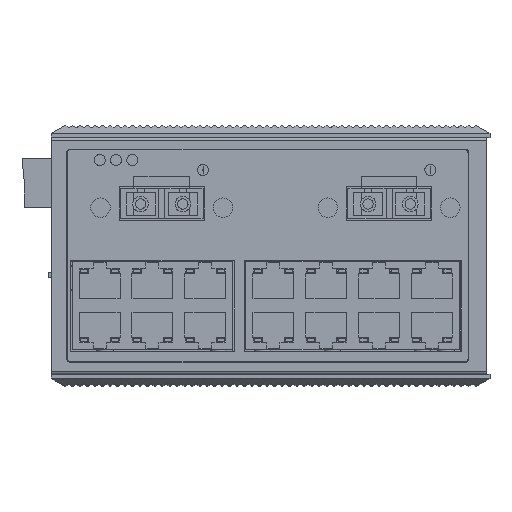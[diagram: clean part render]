
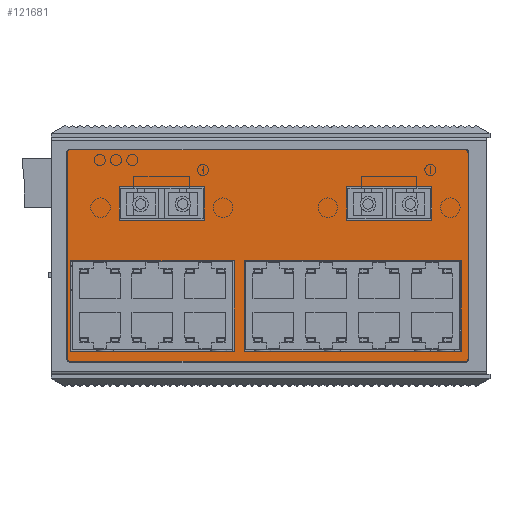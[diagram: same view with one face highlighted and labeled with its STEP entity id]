
A CAD part, top view. The second image highlights one B-rep face of the part: STEP entity #121681.
In plain terms, the highlighted planar face has unit normal (0, 0, 1).
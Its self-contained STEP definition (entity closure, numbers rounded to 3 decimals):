
#121158=DIRECTION('',(0.,1.,0.));
#121159=VECTOR('',#121158,63.5);
#121160=CARTESIAN_POINT('',(-60.63,-30.85,49.3));
#121161=LINE('',#121160,#121159);
#121170=DIRECTION('',(-1.,0.,0.));
#121171=VECTOR('',#121170,121.76);
#121172=CARTESIAN_POINT('',(61.93,-31.65,49.3));
#121173=LINE('',#121172,#121171);
#121182=DIRECTION('',(0.,-1.,0.));
#121183=VECTOR('',#121182,63.5);
#121184=CARTESIAN_POINT('',(62.73,32.65,49.3));
#121185=LINE('',#121184,#121183);
#121194=DIRECTION('',(1.,0.,0.));
#121195=VECTOR('',#121194,121.76);
#121196=CARTESIAN_POINT('',(-59.83,33.45,49.3));
#121197=LINE('',#121196,#121195);
#121206=CARTESIAN_POINT('',(-59.83,-30.85,49.3));
#121207=DIRECTION('',(0.,0.,1.));
#121208=DIRECTION('',(-1.,0.,0.));
#121209=AXIS2_PLACEMENT_3D('',#121206,#121207,#121208);
#121211=CARTESIAN_POINT('',(-59.83,32.65,49.3));
#121212=DIRECTION('',(0.,0.,1.));
#121213=DIRECTION('',(0.,1.,0.));
#121214=AXIS2_PLACEMENT_3D('',#121211,#121212,#121213);
#121216=CARTESIAN_POINT('',(61.93,32.65,49.3));
#121217=DIRECTION('',(0.,0.,1.));
#121218=DIRECTION('',(1.,0.,0.));
#121219=AXIS2_PLACEMENT_3D('',#121216,#121217,#121218);
#121221=CARTESIAN_POINT('',(61.93,-30.85,49.3));
#121222=DIRECTION('',(0.,0.,1.));
#121223=DIRECTION('',(0.,-1.,0.));
#121224=AXIS2_PLACEMENT_3D('',#121221,#121222,#121223);
#121226=DIRECTION('',(0.,-1.,0.));
#121227=VECTOR('',#121226,10.4);
#121228=CARTESIAN_POINT('',(51.56,22.2,49.3));
#121229=LINE('',#121228,#121227);
#121230=DIRECTION('',(1.,0.,0.));
#121231=VECTOR('',#121230,26.2);
#121232=CARTESIAN_POINT('',(25.36,22.2,49.3));
#121233=LINE('',#121232,#121231);
#121234=DIRECTION('',(0.,1.,0.));
#121235=VECTOR('',#121234,10.4);
#121236=CARTESIAN_POINT('',(25.36,11.8,49.3));
#121237=LINE('',#121236,#121235);
#121238=DIRECTION('',(-1.,0.,0.));
#121239=VECTOR('',#121238,26.2);
#121240=CARTESIAN_POINT('',(51.56,11.8,49.3));
#121241=LINE('',#121240,#121239);
#121242=DIRECTION('',(0.,-1.,0.));
#121243=VECTOR('',#121242,10.4);
#121244=CARTESIAN_POINT('',(-18.44,22.2,49.3));
#121245=LINE('',#121244,#121243);
#121246=DIRECTION('',(1.,0.,0.));
#121247=VECTOR('',#121246,26.2);
#121248=CARTESIAN_POINT('',(-44.64,22.2,49.3));
#121249=LINE('',#121248,#121247);
#121250=DIRECTION('',(0.,1.,0.));
#121251=VECTOR('',#121250,10.4);
#121252=CARTESIAN_POINT('',(-44.64,11.8,49.3));
#121253=LINE('',#121252,#121251);
#121254=DIRECTION('',(-1.,0.,0.));
#121255=VECTOR('',#121254,26.2);
#121256=CARTESIAN_POINT('',(-18.44,11.8,49.3));
#121257=LINE('',#121256,#121255);
#121258=DIRECTION('',(0.,1.,0.));
#121259=VECTOR('',#121258,27.95);
#121260=CARTESIAN_POINT('',(-59.625,-28.55,49.3));
#121261=LINE('',#121260,#121259);
#121262=DIRECTION('',(-1.,0.,0.));
#121263=VECTOR('',#121262,50.45);
#121264=CARTESIAN_POINT('',(-9.175,-28.55,49.3));
#121265=LINE('',#121264,#121263);
#121266=DIRECTION('',(0.,-1.,0.));
#121267=VECTOR('',#121266,27.95);
#121268=CARTESIAN_POINT('',(-9.175,-0.6,49.3));
#121269=LINE('',#121268,#121267);
#121270=DIRECTION('',(1.,0.,0.));
#121271=VECTOR('',#121270,50.45);
#121272=CARTESIAN_POINT('',(-59.625,-0.6,49.3));
#121273=LINE('',#121272,#121271);
#121274=DIRECTION('',(1.,0.,0.));
#121275=VECTOR('',#121274,66.81);
#121276=CARTESIAN_POINT('',(-6.175,-0.6,49.3));
#121277=LINE('',#121276,#121275);
#121278=DIRECTION('',(0.,1.,0.));
#121279=VECTOR('',#121278,27.95);
#121280=CARTESIAN_POINT('',(-6.175,-28.55,49.3));
#121281=LINE('',#121280,#121279);
#121282=DIRECTION('',(-1.,0.,0.));
#121283=VECTOR('',#121282,66.81);
#121284=CARTESIAN_POINT('',(60.635,-28.55,49.3));
#121285=LINE('',#121284,#121283);
#121286=DIRECTION('',(0.,-1.,0.));
#121287=VECTOR('',#121286,27.95);
#121288=CARTESIAN_POINT('',(60.635,-0.6,49.3));
#121289=LINE('',#121288,#121287);
#121359=CARTESIAN_POINT('',(-59.83,-31.65,49.3));
#121361=VERTEX_POINT('',#121359);
#121368=CARTESIAN_POINT('',(-60.63,-30.85,49.3));
#121369=VERTEX_POINT('',#121368);
#121382=CARTESIAN_POINT('',(-60.63,32.65,49.3));
#121383=VERTEX_POINT('',#121382);
#121384=CARTESIAN_POINT('',(61.93,-31.65,49.3));
#121385=VERTEX_POINT('',#121384);
#121394=CARTESIAN_POINT('',(25.36,22.2,49.3));
#121395=VERTEX_POINT('',#121394);
#121396=CARTESIAN_POINT('',(25.36,11.8,49.3));
#121397=VERTEX_POINT('',#121396);
#121400=CARTESIAN_POINT('',(-59.83,33.45,49.3));
#121401=VERTEX_POINT('',#121400);
#121412=CARTESIAN_POINT('',(-44.64,22.2,49.3));
#121413=VERTEX_POINT('',#121412);
#121414=CARTESIAN_POINT('',(-44.64,11.8,49.3));
#121415=VERTEX_POINT('',#121414);
#121416=CARTESIAN_POINT('',(51.56,11.8,49.3));
#121417=VERTEX_POINT('',#121416);
#121418=CARTESIAN_POINT('',(51.56,22.2,49.3));
#121419=VERTEX_POINT('',#121418);
#121420=CARTESIAN_POINT('',(61.93,33.45,49.3));
#121421=VERTEX_POINT('',#121420);
#121422=CARTESIAN_POINT('',(62.73,-30.85,49.3));
#121423=VERTEX_POINT('',#121422);
#121428=CARTESIAN_POINT('',(-9.175,-28.55,49.3));
#121429=VERTEX_POINT('',#121428);
#121430=CARTESIAN_POINT('',(-9.175,-0.6,49.3));
#121431=VERTEX_POINT('',#121430);
#121432=CARTESIAN_POINT('',(-18.44,11.8,49.3));
#121433=VERTEX_POINT('',#121432);
#121434=CARTESIAN_POINT('',(-18.44,22.2,49.3));
#121435=VERTEX_POINT('',#121434);
#121436=CARTESIAN_POINT('',(62.73,32.65,49.3));
#121437=VERTEX_POINT('',#121436);
#121438=CARTESIAN_POINT('',(-6.175,-28.55,49.3));
#121439=VERTEX_POINT('',#121438);
#121440=CARTESIAN_POINT('',(60.635,-28.55,49.3));
#121441=VERTEX_POINT('',#121440);
#121442=CARTESIAN_POINT('',(-59.625,-0.6,49.3));
#121443=VERTEX_POINT('',#121442);
#121444=CARTESIAN_POINT('',(-59.625,-28.55,49.3));
#121445=VERTEX_POINT('',#121444);
#121446=CARTESIAN_POINT('',(60.635,-0.6,49.3));
#121447=VERTEX_POINT('',#121446);
#121448=CARTESIAN_POINT('',(-6.175,-0.6,49.3));
#121449=VERTEX_POINT('',#121448);
#121626=CARTESIAN_POINT('',(0.,0.,49.3));
#121627=DIRECTION('',(0.,0.,1.));
#121628=DIRECTION('',(0.,-1.,0.));
#121629=AXIS2_PLACEMENT_3D('',#121626,#121627,#121628);
#121630=PLANE('',#121629);
#121631=ORIENTED_EDGE('',*,*,#121552,.T.);
#121632=ORIENTED_EDGE('',*,*,#121538,.F.);
#121633=ORIENTED_EDGE('',*,*,#121524,.T.);
#121634=ORIENTED_EDGE('',*,*,#121621,.F.);
#121635=ORIENTED_EDGE('',*,*,#121608,.T.);
#121636=ORIENTED_EDGE('',*,*,#121594,.F.);
#121637=ORIENTED_EDGE('',*,*,#121580,.T.);
#121638=ORIENTED_EDGE('',*,*,#121566,.F.);
#121639=EDGE_LOOP('',(#121631,#121632,#121633,#121634,#121635,#121636,#121637,
#121638));
#121640=FACE_OUTER_BOUND('',#121639,.F.);
#121642=ORIENTED_EDGE('',*,*,#121641,.F.);
#121644=ORIENTED_EDGE('',*,*,#121643,.F.);
#121646=ORIENTED_EDGE('',*,*,#121645,.F.);
#121648=ORIENTED_EDGE('',*,*,#121647,.F.);
#121649=EDGE_LOOP('',(#121642,#121644,#121646,#121648));
#121650=FACE_BOUND('',#121649,.F.);
#121652=ORIENTED_EDGE('',*,*,#121651,.F.);
#121654=ORIENTED_EDGE('',*,*,#121653,.F.);
#121656=ORIENTED_EDGE('',*,*,#121655,.F.);
#121658=ORIENTED_EDGE('',*,*,#121657,.F.);
#121659=EDGE_LOOP('',(#121652,#121654,#121656,#121658));
#121660=FACE_BOUND('',#121659,.F.);
#121662=ORIENTED_EDGE('',*,*,#121661,.F.);
#121664=ORIENTED_EDGE('',*,*,#121663,.F.);
#121666=ORIENTED_EDGE('',*,*,#121665,.F.);
#121668=ORIENTED_EDGE('',*,*,#121667,.F.);
#121669=EDGE_LOOP('',(#121662,#121664,#121666,#121668));
#121670=FACE_BOUND('',#121669,.F.);
#121672=ORIENTED_EDGE('',*,*,#121671,.F.);
#121674=ORIENTED_EDGE('',*,*,#121673,.F.);
#121676=ORIENTED_EDGE('',*,*,#121675,.F.);
#121678=ORIENTED_EDGE('',*,*,#121677,.F.);
#121679=EDGE_LOOP('',(#121672,#121674,#121676,#121678));
#121680=FACE_BOUND('',#121679,.F.);
#121681=ADVANCED_FACE('',(#121640,#121650,#121660,#121670,#121680),#121630,.T.);
#121210=CIRCLE('',#121209,0.8);
#121215=CIRCLE('',#121214,0.8);
#121220=CIRCLE('',#121219,0.8);
#121225=CIRCLE('',#121224,0.8);
#121524=EDGE_CURVE('',#121369,#121383,#121161,.T.);
#121538=EDGE_CURVE('',#121369,#121361,#121210,.T.);
#121552=EDGE_CURVE('',#121385,#121361,#121173,.T.);
#121566=EDGE_CURVE('',#121385,#121423,#121225,.T.);
#121580=EDGE_CURVE('',#121437,#121423,#121185,.T.);
#121594=EDGE_CURVE('',#121437,#121421,#121220,.T.);
#121608=EDGE_CURVE('',#121401,#121421,#121197,.T.);
#121621=EDGE_CURVE('',#121401,#121383,#121215,.T.);
#121641=EDGE_CURVE('',#121419,#121417,#121229,.T.);
#121643=EDGE_CURVE('',#121395,#121419,#121233,.T.);
#121645=EDGE_CURVE('',#121397,#121395,#121237,.T.);
#121647=EDGE_CURVE('',#121417,#121397,#121241,.T.);
#121651=EDGE_CURVE('',#121435,#121433,#121245,.T.);
#121653=EDGE_CURVE('',#121413,#121435,#121249,.T.);
#121655=EDGE_CURVE('',#121415,#121413,#121253,.T.);
#121657=EDGE_CURVE('',#121433,#121415,#121257,.T.);
#121661=EDGE_CURVE('',#121445,#121443,#121261,.T.);
#121663=EDGE_CURVE('',#121429,#121445,#121265,.T.);
#121665=EDGE_CURVE('',#121431,#121429,#121269,.T.);
#121667=EDGE_CURVE('',#121443,#121431,#121273,.T.);
#121671=EDGE_CURVE('',#121449,#121447,#121277,.T.);
#121673=EDGE_CURVE('',#121439,#121449,#121281,.T.);
#121675=EDGE_CURVE('',#121441,#121439,#121285,.T.);
#121677=EDGE_CURVE('',#121447,#121441,#121289,.T.);
